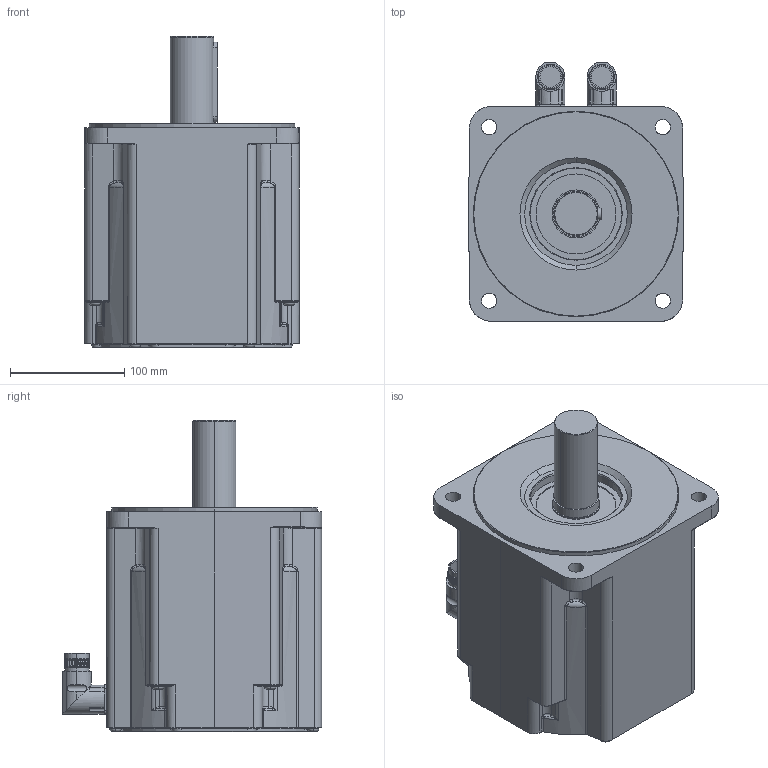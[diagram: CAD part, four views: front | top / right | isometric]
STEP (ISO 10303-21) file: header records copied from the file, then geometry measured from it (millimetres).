
FILE_DESCRIPTION (( 'STEP AP214' ), '1' );
FILE_NAME ('MR7774-Ux-Nxx-G01-A0D-MS-P0.stp', '2009-04-08T13:46:00', ( 'SysAdmin' ), ( 'SolidWorks' ), 'SwSTEP 2.0', 'SolidWorks 2009', '' );
FILE_SCHEMA (( 'AUTOMOTIVE_DESIGN' ));
Length unit declared in the file: millimetre
Products named in the file (1): MR7774-Ux-Nxx-G01-A0D-MS-P0
Bounding box: 188 x 227 x 272.5 mm (x, y, z)
Volume: 6056051.3 mm3; surface area: 229261.7 mm2
Topology: 1 solids, 1 shells, 654 faces, 1601 edges, 955 vertices
Faces by surface type: cylinder 235, bspline 128, plane 127, cone 108, torus 56
Entity records: 27399 total; most frequent: CARTESIAN_POINT 9087, ORIENTED_EDGE 3162, DIRECTION 2880, EDGE_CURVE 1581, AXIS2_PLACEMENT_3D 1216, VERTEX_POINT 955, CIRCLE 689, EDGE_LOOP 688
